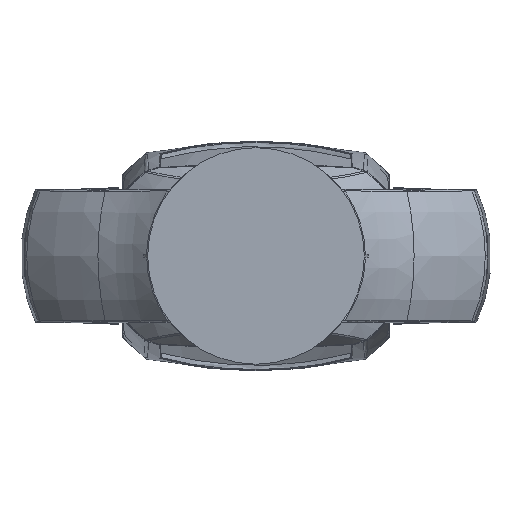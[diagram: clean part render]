
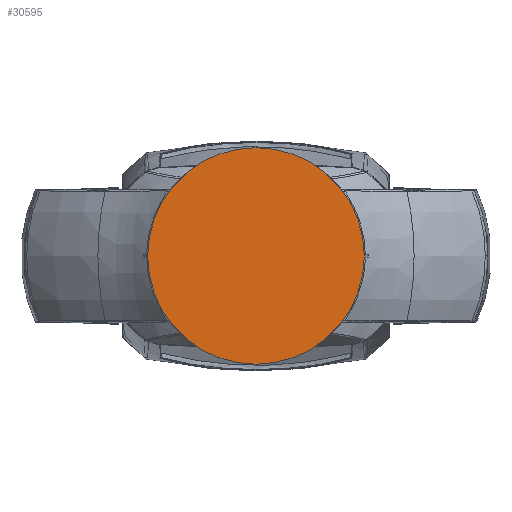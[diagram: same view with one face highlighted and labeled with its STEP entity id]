
A CAD part, front view. The second image highlights one B-rep face of the part: STEP entity #30595.
In plain terms, the highlighted planar face has unit normal (0, -1, 0).
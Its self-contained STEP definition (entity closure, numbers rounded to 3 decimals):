
#30548=CARTESIAN_POINT('',(0.,-43.4,0.));
#30549=DIRECTION('',(0.,1.,0.));
#30550=DIRECTION('',(1.,0.,0.));
#30551=AXIS2_PLACEMENT_3D('',#30548,#30549,#30550);
#30553=CARTESIAN_POINT('',(0.,-43.4,0.));
#30554=DIRECTION('',(0.,1.,0.));
#30555=DIRECTION('',(-1.,0.,0.));
#30556=AXIS2_PLACEMENT_3D('',#30553,#30554,#30555);
#30576=CARTESIAN_POINT('',(108.5,-43.4,0.));
#30577=CARTESIAN_POINT('',(-108.5,-43.4,0.));
#30578=VERTEX_POINT('',#30576);
#30579=VERTEX_POINT('',#30577);
#30584=CARTESIAN_POINT('',(0.,-43.4,0.));
#30585=DIRECTION('',(0.,1.,0.));
#30586=DIRECTION('',(1.,0.,0.));
#30587=AXIS2_PLACEMENT_3D('',#30584,#30585,#30586);
#30588=PLANE('',#30587);
#30590=ORIENTED_EDGE('',*,*,#30589,.T.);
#30592=ORIENTED_EDGE('',*,*,#30591,.T.);
#30593=EDGE_LOOP('',(#30590,#30592));
#30594=FACE_OUTER_BOUND('',#30593,.F.);
#30552=CIRCLE('',#30551,108.5);
#30557=CIRCLE('',#30556,108.5);
#30589=EDGE_CURVE('',#30578,#30579,#30552,.T.);
#30591=EDGE_CURVE('',#30579,#30578,#30557,.T.);
#30595=ADVANCED_FACE('',(#30594),#30588,.F.);
